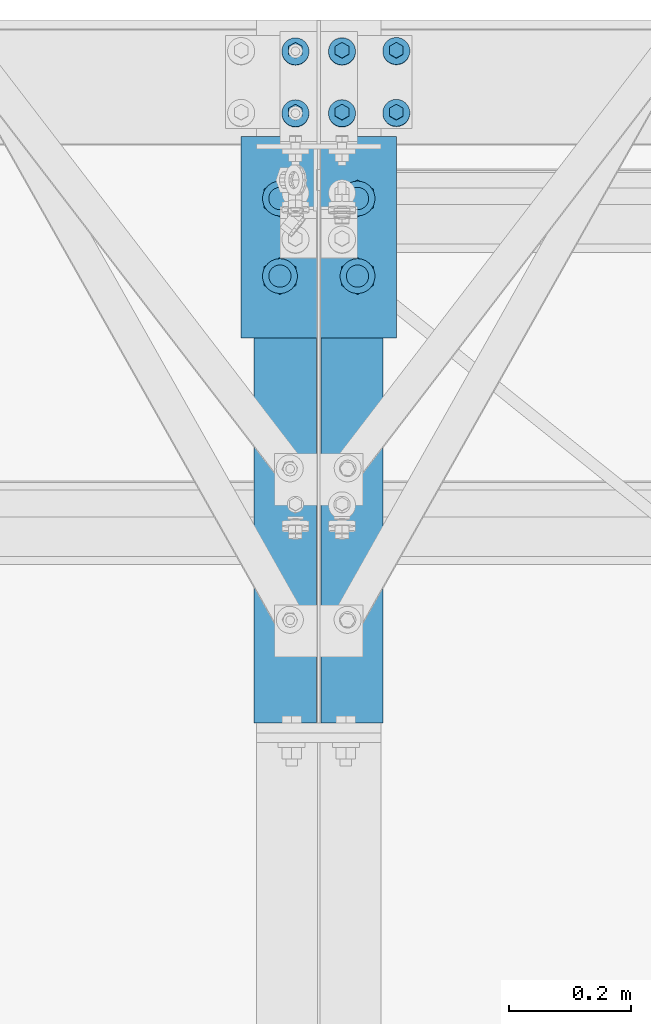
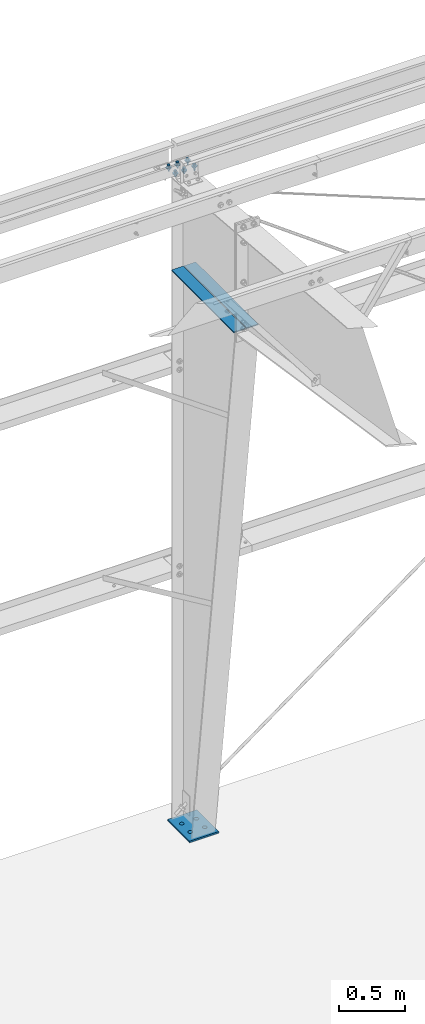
# One storey, part 100 of 185: 4 mechanical fasteners, 3 discrete accessories, 3 elements without a shape of their own.
"""IFC2X3 building model written with IfcOpenShell, lengths in millimetres."""

from ifc_helpers import new_model, si_unit, frame, origin_with_axes, origin_2d_with_axis, place, context, subcontext, project, spatial, polyline, rectangle, circle, outline, extrude, source, transform, mapped, material, type_object, element, aggregate, save


model = new_model("IFC2X3")

# Units and contexts
model_context = context("Model", 3, precision=1e-05, world=origin_with_axes())
body_context = subcontext(model_context, "Body", "Model", "MODEL_VIEW")
ifc_project = project(units=[si_unit("LENGTHUNIT", "METRE", prefix="MILLI"), si_unit("AREAUNIT", "SQUARE_METRE"), si_unit("VOLUMEUNIT", "CUBIC_METRE"), si_unit("MASSUNIT", "GRAM", prefix="KILO"), si_unit("TIMEUNIT", "SECOND"), si_unit("PLANEANGLEUNIT", "RADIAN"), si_unit("SOLIDANGLEUNIT", "STERADIAN"), si_unit("THERMODYNAMICTEMPERATUREUNIT", "DEGREE_CELSIUS"), si_unit("LUMINOUSINTENSITYUNIT", "LUMEN")], contexts=[model_context])

# Site, building, storey
site_placement = place(None, origin_with_axes())
site = spatial("IfcSite", under=ifc_project, at=site_placement, Name="Undefined", CompositionType="ELEMENT")
building_placement = place(site_placement, origin_with_axes())
building = spatial("IfcBuilding", under=site, at=building_placement, Name="Undefined", CompositionType="ELEMENT")
storey_placement = place(building_placement, origin_with_axes())
storey = spatial("IfcBuildingStorey", under=building, at=storey_placement, Name="Undefined", CompositionType="ELEMENT", Elevation=0.0)

# Assembly, discrete accessories
assembly_1_placement = place(storey_placement, origin_with_axes())
assembly_1 = element("IfcElementAssembly", 1, at=assembly_1_placement, inside=storey, Name="Steel Assembly", AssemblyPlace="NOTDEFINED", PredefinedType="RIGID_FRAME")
ifc_material_1 = material(Name="STEEL/55")
discrete_accessory_type_1 = type_object("IfcDiscreteAccessoryType", Name="Stiff")
discrete_accessory_1_placement = place(assembly_1_placement, frame((30044.23125, 31792.926, 5059.01498446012), z_axis=(1.0, 0.0, 0.0), x_axis=(0.0, -1.0, 0.0)))
discrete_accessory_1 = element("IfcDiscreteAccessory", 2, at=discrete_accessory_1_placement, type_object=discrete_accessory_type_1, material=ifc_material_1, Name="Stiff", ObjectType="FL3/8\"X4\"", context=body_context, shape_type="SweptSolid", body=[
    extrude(rectangle(XDim=9.525, YDim=101.6, at=origin_2d_with_axis()), frame((939.799999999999, 0.0, 0.0), z_axis=(-1.0, 0.0, 0.0), x_axis=(0.0, -1.0, 0.0)), (0.0, 0.0, 1.0), 939.8),
])
discrete_accessory_2_placement = place(assembly_1_placement, frame((30153.76875, 31792.926, 5059.01498446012), z_axis=(1.0, 0.0, 0.0), x_axis=(0.0, -1.0, 0.0)))
discrete_accessory_2 = element("IfcDiscreteAccessory", 3, at=discrete_accessory_2_placement, type_object=discrete_accessory_type_1, material=ifc_material_1, Name="Stiff", ObjectType="FL3/8\"X4\"", context=body_context, shape_type="SweptSolid", body=[
    extrude(rectangle(XDim=9.525, YDim=101.6, at=origin_2d_with_axis()), frame((939.799999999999, 0.0, 0.0), z_axis=(-1.0, 0.0, 0.0), x_axis=(0.0, -1.0, 0.0)), (0.0, 0.0, 1.0), 939.8),
])
discrete_accessory_type_2 = type_object("IfcDiscreteAccessoryType", Name="Base Plate")
discrete_accessory_3_placement = place(assembly_1_placement, frame((30099.0, 31813.4999998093, 7.93750000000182), z_axis=(-1.0, 0.0, 0.0), x_axis=(0.0, -1.0, 0.0)))
discrete_accessory_3 = element("IfcDiscreteAccessory", 4, at=discrete_accessory_3_placement, type_object=discrete_accessory_type_2, material=ifc_material_1, Name="Base Plate", ObjectType="FL5/8\"X10\"", context=body_context, shape_type="SweptSolid", body=[
    extrude(rectangle(XDim=15.875, YDim=254.0, at=origin_2d_with_axis()), frame((330.309933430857, 0.0, 0.0), z_axis=(-1.0, 0.0, 0.0), x_axis=(0.0, -1.0, 0.0)), (0.0, 0.0, 1.0), 330.3),
])

# Assembly, mechanical fasteners
assembly_2_placement = place(storey_placement, origin_with_axes())
assembly_2 = element("IfcElementAssembly", 5, at=assembly_2_placement, inside=storey, Name="Steel Assembly", AssemblyPlace="NOTDEFINED", PredefinedType="RIGID_FRAME")
ifc_material_2 = material(Name="Undefined")
discrete_accessory_type_3 = type_object("IfcDiscreteAccessoryType", Name="Bolt assembly")
shared_shape_1 = source(origin_with_axes(), body_context, "Body", "SweptSolid", [
    extrude(circle(Radius=7.14499998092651, at=origin_2d_with_axis()), frame((0.0, -7.8375000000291, 0.0), z_axis=(0.0, 1.0, 0.0), x_axis=(1.0, 0.0, 0.0)), (0.0, 0.0, 1.0), 6.4),
    extrude(circle(Radius=7.14499998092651, at=origin_2d_with_axis()), frame((0.0, -1.58749999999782, 0.0), z_axis=(0.0, 1.0, 0.0), x_axis=(1.0, 0.0, 0.0)), (0.0, 0.0, 1.0), 1.6),
    extrude(circle(Radius=7.14499998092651, at=origin_2d_with_axis()), frame((0.0, -0.1, 0.0), z_axis=(0.0, 1.0, 0.0), x_axis=(1.0, 0.0, 0.0)), (0.0, 0.0, 1.0), 8.1),
    extrude(outline(polyline([(12.8316099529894, 0.0), (6.4158049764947, 11.1125001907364), (-6.4158049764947, 11.1125001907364), (-12.8316099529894, 0.0), (-6.4158049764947, -11.1125001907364), (6.4158049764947, -11.1125001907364), (12.8316099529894, 0.0)])), frame((0.0, -15.8750000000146, 0.0), z_axis=(0.0, 1.0, 0.0), x_axis=(1.0, 0.0, 0.0)), (0.0, 0.0, 1.0), 7.9),
    extrude(circle(Radius=6.34999990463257, at=origin_2d_with_axis()), frame((0.0, -7.93749389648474, 0.0), z_axis=(0.0, 1.0, 0.0), x_axis=(1.0, 0.0, 0.0)), (0.0, 0.0, 1.0), 50.8),
    extrude(circle(Radius=22.2250003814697, at=origin_2d_with_axis()), frame((0.0, 7.95019856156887, 0.0), z_axis=(0.0, 1.0, 0.0), x_axis=(1.0, 0.0, 0.0)), (0.0, 0.0, 1.0), 7.9),
    extrude(outline(polyline([(12.8316099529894, 0.0), (6.4158049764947, 11.1125001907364), (-6.4158049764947, 11.1125001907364), (-12.8316099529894, 0.0), (-6.4158049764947, -11.1125001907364), (6.4158049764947, -11.1125001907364), (12.8316099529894, 0.0)])), frame((0.0, 15.8876985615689, 0.0), z_axis=(0.0, 1.0, 0.0), x_axis=(1.0, 0.0, 0.0)), (0.0, 0.0, 1.0), 12.3),
])
mechanical_fastener_1_placement = place(assembly_2_placement, frame((30137.1, 31953.3754762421, 5896.3143754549), z_axis=(1.0, 0.0, 0.0), x_axis=(0.0, -0.996545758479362, 0.0830454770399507)))
mechanical_fastener_1 = element("IfcMechanicalFastener", 6, at=mechanical_fastener_1_placement, type_object=discrete_accessory_type_3, material=ifc_material_2, Name="Bolt assembly", NominalDiameter=12.6999998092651, NominalLength=50.7999992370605, context=body_context, shape_type="MappedRepresentation", body=[
    mapped(shared_shape_1, transform((0.0, 0.0, 0.0))),
    mapped(shared_shape_1, transform((101.599998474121, 0.0, 0.0))),
])
shared_shape_2 = source(origin_with_axes(), body_context, "Body", "SweptSolid", [
    extrude(circle(Radius=7.14499998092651, at=origin_2d_with_axis()), frame((0.0, -7.8375000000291, 0.0), z_axis=(0.0, 1.0, 0.0), x_axis=(1.0, 0.0, 0.0)), (0.0, 0.0, 1.0), 6.4),
    extrude(circle(Radius=7.14499998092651, at=origin_2d_with_axis()), frame((0.0, -1.68750355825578, 0.0), z_axis=(0.0, 1.0, 0.0), x_axis=(1.0, 0.0, 0.0)), (0.0, 0.0, 1.0), 1.7),
    extrude(outline(polyline([(12.8316099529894, 0.0), (6.4158049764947, 11.1125001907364), (-6.4158049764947, 11.1125001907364), (-12.8316099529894, 0.0), (-6.4158049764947, -11.1125001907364), (6.4158049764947, -11.1125001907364), (12.8316099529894, 0.0)])), frame((0.0, -15.8750000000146, 0.0), z_axis=(0.0, 1.0, 0.0), x_axis=(1.0, 0.0, 0.0)), (0.0, 0.0, 1.0), 7.9),
    extrude(circle(Radius=6.34999990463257, at=origin_2d_with_axis()), frame((0.0, -7.93749389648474, 0.0), z_axis=(0.0, 1.0, 0.0), x_axis=(1.0, 0.0, 0.0)), (0.0, 0.0, 1.0), 50.8),
    extrude(circle(Radius=22.2250003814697, at=origin_2d_with_axis()), frame((0.0, 0.0, 0.0), z_axis=(0.0, 1.0, 0.0), x_axis=(1.0, 0.0, 0.0)), (0.0, 0.0, 1.0), 7.9),
    extrude(outline(polyline([(12.8316099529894, 0.0), (6.4158049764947, 11.1125001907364), (-6.4158049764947, 11.1125001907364), (-12.8316099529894, 0.0), (-6.4158049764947, -11.1125001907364), (6.4158049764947, -11.1125001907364), (12.8316099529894, 0.0)])), frame((0.0, 7.93750000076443, 0.0), z_axis=(0.0, 1.0, 0.0), x_axis=(1.0, 0.0, 0.0)), (0.0, 0.0, 1.0), 12.3),
])
mechanical_fastener_2_placement = place(assembly_2_placement, frame((30226.0, 31953.3754762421, 5896.3143754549), z_axis=(1.0, 0.0, 0.0), x_axis=(0.0, -0.996545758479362, 0.0830454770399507)))
mechanical_fastener_2 = element("IfcMechanicalFastener", 7, at=mechanical_fastener_2_placement, type_object=discrete_accessory_type_3, material=ifc_material_2, Name="Bolt assembly", NominalDiameter=12.6999998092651, NominalLength=50.7999992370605, context=body_context, shape_type="MappedRepresentation", body=[
    mapped(shared_shape_2, transform((0.0, 0.0, 0.0))),
    mapped(shared_shape_2, transform((101.599998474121, 0.0, 0.0))),
])
aggregate(assembly_2, [mechanical_fastener_1, mechanical_fastener_2])

# Assembly, mechanical fastener
assembly_3_placement = place(storey_placement, origin_with_axes())
assembly_3 = element("IfcElementAssembly", 8, at=assembly_3_placement, inside=storey, Name="Steel Assembly", AssemblyPlace="NOTDEFINED", PredefinedType="RIGID_FRAME")
shared_shape_3 = source(origin_with_axes(), body_context, "Body", "SweptSolid", [
    extrude(circle(Radius=7.14499998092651, at=origin_2d_with_axis()), frame((0.0, -1.58749999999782, 0.0), z_axis=(0.0, 1.0, 0.0), x_axis=(1.0, 0.0, 0.0)), (0.0, 0.0, 1.0), 1.6),
    extrude(circle(Radius=7.14499998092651, at=origin_2d_with_axis()), frame((0.0, -7.8375000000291, 0.0), z_axis=(0.0, 1.0, 0.0), x_axis=(1.0, 0.0, 0.0)), (0.0, 0.0, 1.0), 6.4),
    extrude(circle(Radius=7.14499998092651, at=origin_2d_with_axis()), frame((0.0, -0.1, 0.0), z_axis=(0.0, 1.0, 0.0), x_axis=(1.0, 0.0, 0.0)), (0.0, 0.0, 1.0), 8.1),
    extrude(outline(polyline([(12.8316099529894, 0.0), (6.4158049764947, 11.1125001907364), (-6.4158049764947, 11.1125001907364), (-12.8316099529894, 0.0), (-6.4158049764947, -11.1125001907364), (6.4158049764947, -11.1125001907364), (12.8316099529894, 0.0)])), frame((0.0, -15.8750000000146, 0.0), z_axis=(0.0, 1.0, 0.0), x_axis=(1.0, 0.0, 0.0)), (0.0, 0.0, 1.0), 7.9),
    extrude(circle(Radius=6.34999990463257, at=origin_2d_with_axis()), frame((0.0, -7.93749389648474, 0.0), z_axis=(0.0, 1.0, 0.0), x_axis=(1.0, 0.0, 0.0)), (0.0, 0.0, 1.0), 50.8),
    extrude(circle(Radius=22.2250003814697, at=origin_2d_with_axis()), frame((0.0, 7.95019856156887, 0.0), z_axis=(0.0, 1.0, 0.0), x_axis=(1.0, 0.0, 0.0)), (0.0, 0.0, 1.0), 7.9),
    extrude(outline(polyline([(12.8316099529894, 0.0), (6.4158049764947, 11.1125001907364), (-6.4158049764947, 11.1125001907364), (-12.8316099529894, 0.0), (-6.4158049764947, -11.1125001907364), (6.4158049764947, -11.1125001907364), (12.8316099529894, 0.0)])), frame((0.0, 15.8876985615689, 0.0), z_axis=(0.0, 1.0, 0.0), x_axis=(1.0, 0.0, 0.0)), (0.0, 0.0, 1.0), 12.3),
])
mechanical_fastener_3_placement = place(assembly_3_placement, frame((30060.9, 31953.3754762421, 5896.3143754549), z_axis=(1.0, 0.0, 0.0), x_axis=(0.0, -0.996545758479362, 0.0830454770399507)))
mechanical_fastener_3 = element("IfcMechanicalFastener", 9, at=mechanical_fastener_3_placement, type_object=discrete_accessory_type_3, material=ifc_material_2, Name="Bolt assembly", NominalDiameter=12.6999998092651, NominalLength=50.7999992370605, context=body_context, shape_type="MappedRepresentation", body=[
    mapped(shared_shape_3, transform((0.0, 0.0, 0.0))),
    mapped(shared_shape_3, transform((101.599998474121, 0.0, 0.0))),
])
aggregate(assembly_3, [mechanical_fastener_3])

# Mechanical fastener
ifc_material_3 = material(Name="7990")
shared_shape_4 = source(origin_with_axes(), body_context, "Body", "SweptSolid", [
    extrude(circle(Radius=18.2562503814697, at=origin_2d_with_axis()), frame((0.0, -15.8750000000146, 0.0), z_axis=(0.0, 1.0, 0.0), x_axis=(1.0, 0.0, 0.0)), (0.0, 0.0, 1.0), 16.0),
    extrude(circle(Radius=28.575, at=origin_2d_with_axis()), frame((0.0, 0.0, 0.0), z_axis=(0.0, 1.0, 0.0), x_axis=(1.0, 0.0, 0.0)), (0.0, 0.0, 1.0), 10.5),
    extrude(outline(polyline([(30.4292459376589, 0.0), (15.2146229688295, 26.3525000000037), (-15.2146229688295, 26.3525000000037), (-30.4292459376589, 0.0), (-15.2146229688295, -26.3525000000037), (15.2146229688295, -26.3525000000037), (30.4292459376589, 0.0)])), frame((0.0, 10.4775, 0.0), z_axis=(0.0, 1.0, 0.0), x_axis=(1.0, 0.0, 0.0)), (0.0, 0.0, 1.0), 21.0),
])
mechanical_fastener_4_placement = place(assembly_1_placement, frame((30099.0, 31711.8999984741, 1.81898940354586e-12), z_axis=(1.0, 0.0, 0.0), x_axis=(0.0, -1.0, 0.0)))
mechanical_fastener_4 = element("IfcMechanicalFastener", 10, at=mechanical_fastener_4_placement, type_object=discrete_accessory_type_3, material=ifc_material_3, Name="Bolt assembly", NominalDiameter=31.75, NominalLength=15.875, context=body_context, shape_type="MappedRepresentation", body=[
    mapped(shared_shape_4, transform((0.0, 0.0, -63.5))),
    mapped(shared_shape_4, transform((127.0, 0.0, -63.5))),
    mapped(shared_shape_4, transform((0.0, 0.0, 63.5))),
    mapped(shared_shape_4, transform((127.0, 0.0, 63.5))),
])

aggregate(assembly_1, [mechanical_fastener_4, discrete_accessory_1, discrete_accessory_2, discrete_accessory_3])

save(model, "model.ifc")
